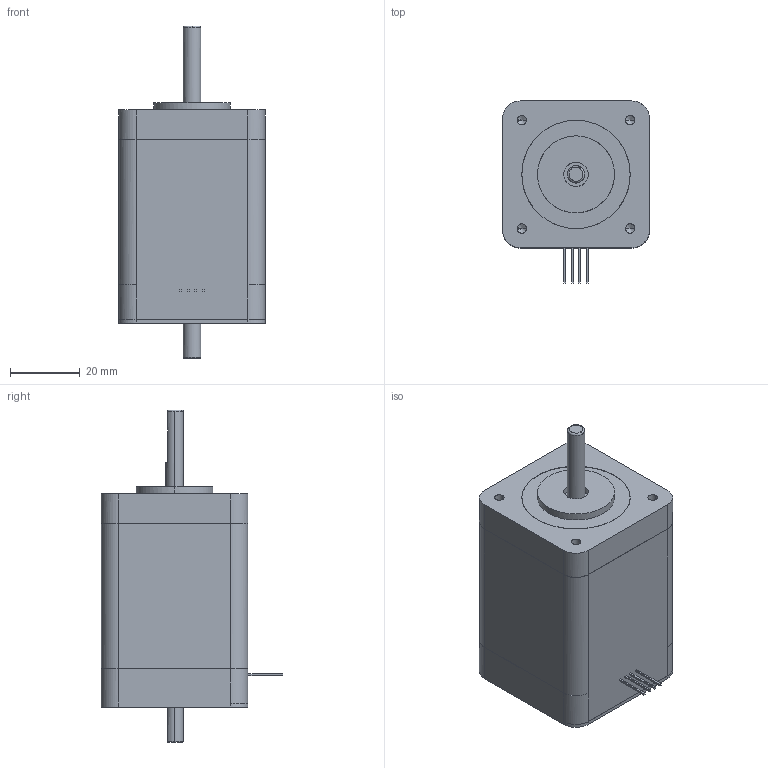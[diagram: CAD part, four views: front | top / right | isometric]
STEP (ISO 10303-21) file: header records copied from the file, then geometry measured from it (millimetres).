
FILE_DESCRIPTION (( 'STEP AP203' ), '1' );
FILE_NAME ('STC-42D20-1461邧粣.STEP', '2019-11-02T02:17:26', ( 'China' ), ( 'Home' ), 'SwSTEP 2.0', 'SolidWorks 2016', '' );
FILE_SCHEMA (( 'CONFIG_CONTROL_DESIGN' ));
Length unit declared in the file: millimetre
Products named in the file (1): STC-42D20-1461邧粣
Bounding box: 42 x 52 x 95 mm (x, y, z)
Volume: 106931.9 mm3; surface area: 14463.7 mm2
Topology: 5 solids, 5 shells, 178 faces, 436 edges, 279 vertices
Faces by surface type: plane 107, cylinder 50, cone 16, torus 5
Entity records: 7181 total; most frequent: CARTESIAN_POINT 3090, ORIENTED_EDGE 856, DIRECTION 741, EDGE_CURVE 428, VECTOR 299, LINE 299, VERTEX_POINT 279, AXIS2_PLACEMENT_3D 221
